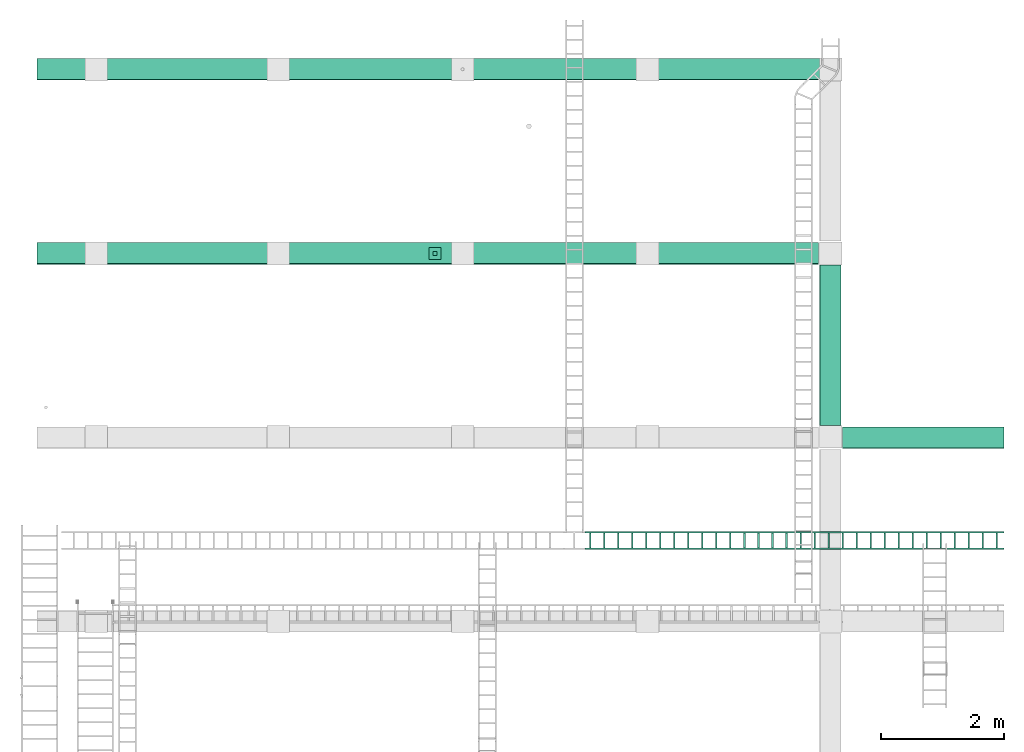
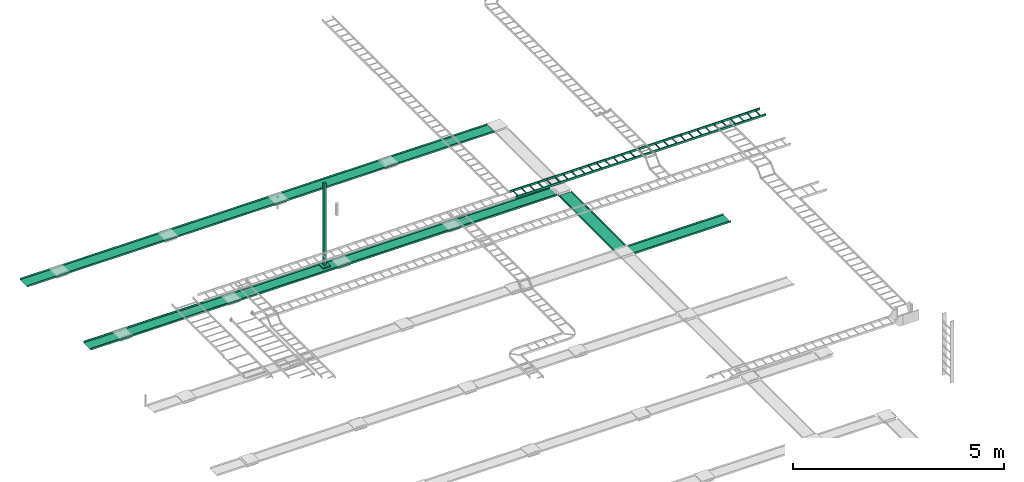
# One storey, part 12 of 16: 6 flow segments, 1 flow fitting.
"""IFC2X3 building model written with IfcOpenShell, lengths in millimetres."""

import ifcopenshell
import ifcopenshell.guid

model = None  # the IFC model being written
_history = None  # IfcOwnerHistory: only IFC2X3 demands one
_inside = {}  # id of a spatial element -> (the spatial element, [elements in it])
_under = {}  # id of a project, library or spatial element -> (it, [spatial elements below it])
_declared = {}  # id of a project -> (the project, [libraries it declares])
_typed = {}  # id of a type object -> (the type object, [elements of that type])
_made_of = {}  # id of a material, layer set ... -> (it, [elements and type objects made of it])


def new_model(schema):
    """Start an empty IFC model of exactly this schema.

    Asked for "IFC4X3", IfcOpenShell would pick the latest addendum, in which some entities
    have other attributes; the version numbers below select the first issue.
    IFC2X3 requires an IfcOwnerHistory on every rooted entity: one is made here for all.
    """
    global model, _history
    if schema == "IFC4X3":
        model = ifcopenshell.file(schema_version=(4, 3, 0, 0))
    else:
        model = ifcopenshell.file(schema=schema)
    _inside.clear()
    _under.clear()
    _declared.clear()
    _typed.clear()
    _made_of.clear()
    _history = None
    if model.schema == "IFC2X3":
        org = make("IfcOrganization", Name="unknown")
        user = make(
            "IfcPersonAndOrganization",
            ThePerson=make("IfcPerson", FamilyName="unknown"),
            TheOrganization=org,
        )
        app = make(
            "IfcApplication",
            ApplicationDeveloper=org,
            Version="unknown",
            ApplicationFullName="unknown",
            ApplicationIdentifier="unknown",
        )
        _history = make(
            "IfcOwnerHistory",
            OwningUser=user,
            OwningApplication=app,
            ChangeAction="ADDED",
            CreationDate=0,
        )
    return model


def make(cls, **values):
    """One entity of the class cls with the attributes given. An attribute that is None is left unset."""
    return model.create_entity(
        cls, **{name: value for name, value in values.items() if value is not None}
    )


def entity(cls, *values):
    """Any entity or typed value of the class cls, its attributes in the order of the schema. None: left unset."""
    e = model.create_entity(cls)
    for i, value in enumerate(values):
        if value is not None:
            e[i] = value
    return e


def rooted(cls, **values):
    """An entity with a GlobalId (a new one), such as an element, a storey or a relation."""
    return make(cls, GlobalId=ifcopenshell.guid.new(), OwnerHistory=_history, **values)


def si_unit(unit_type, name, prefix=None):
    """IfcSIUnit, for example si_unit("LENGTHUNIT", "METRE", prefix="MILLI")."""
    return make("IfcSIUnit", UnitType=unit_type, Prefix=prefix, Name=name)


def converted_unit(unit_type, name, factor, base, dimensions=None, offset=None):
    """IfcConversionBasedUnit, such as the inch: factor (a typed value) times the base unit."""
    return make(
        "IfcConversionBasedUnit"
        if offset is None
        else "IfcConversionBasedUnitWithOffset",
        ConversionOffset=offset,
        Dimensions=None
        if dimensions is None
        else entity("IfcDimensionalExponents", *dimensions),
        UnitType=unit_type,
        Name=name,
        ConversionFactor=make(
            "IfcMeasureWithUnit", ValueComponent=factor, UnitComponent=base
        ),
    )


def derived_unit(unit_type, elements):
    """IfcDerivedUnit: a product of units, each with its exponent."""
    return make(
        "IfcDerivedUnit",
        Elements=[
            make("IfcDerivedUnitElement", Unit=unit, Exponent=power)
            for unit, power in elements
        ],
        UnitType=unit_type,
    )


def assignment(units):
    """IfcUnitAssignment: the units of a project."""
    return None if units is None else make("IfcUnitAssignment", Units=units)


def point(xyz):
    """IfcCartesianPoint."""
    return None if xyz is None else make("IfcCartesianPoint", Coordinates=xyz)


def direction(xyz):
    """IfcDirection."""
    return None if xyz is None else make("IfcDirection", DirectionRatios=xyz)


def frame(location, z_axis=None, x_axis=None):
    """IfcAxis2Placement3D, a coordinate frame: its origin and axes. An axis left out is left unset."""
    return make(
        "IfcAxis2Placement3D",
        Location=point(location),
        Axis=direction(z_axis),
        RefDirection=direction(x_axis),
    )


def origin_with_axes():
    """The frame at (0, 0, 0) with the z axis (0, 0, 1) and the x axis (1, 0, 0) written out."""
    return frame((0.0, 0.0, 0.0), z_axis=(0.0, 0.0, 1.0), x_axis=(1.0, 0.0, 0.0))


def place(relative_to, where):
    """IfcLocalPlacement: puts the frame where relative to a parent placement (None: the world)."""
    return make(
        "IfcLocalPlacement", PlacementRelTo=relative_to, RelativePlacement=where
    )


def context(
    kind, dimensions, precision=None, world=None, true_north=None, identifier=None
):
    """IfcGeometricRepresentationContext, for example the 3D "Model" context."""
    return make(
        "IfcGeometricRepresentationContext",
        ContextIdentifier=identifier,
        ContextType=kind,
        CoordinateSpaceDimension=dimensions,
        Precision=precision,
        WorldCoordinateSystem=world,
        TrueNorth=true_north,
    )


def subcontext(parent, identifier, kind, view, scale=None):
    """IfcGeometricRepresentationSubContext, for example "Body" below "Model"."""
    return make(
        "IfcGeometricRepresentationSubContext",
        ContextIdentifier=identifier,
        ContextType=kind,
        ParentContext=parent,
        TargetScale=scale,
        TargetView=view,
    )


def project(units=None, contexts=None):
    """IfcProject with its units and contexts."""
    return rooted(
        "IfcProject",
        Name="project",
        RepresentationContexts=contexts,
        UnitsInContext=assignment(units),
    )


def spatial(cls, under=None, at=None, **own):
    """A site, building, storey or space (cls), placed at a placement, below another one or the project."""
    s = rooted(cls, ObjectPlacement=at, **own)
    if under is not None:
        _under.setdefault(under.id(), (under, []))[1].append(s)
    return s


def faces_of(points, faces, orient=None, outer=None):
    """IfcFace entities. A face is a list of loops; a loop is a list of indices into points, from 0.

    orient and outer hold one flag for each loop. By default every Orientation is true, the
    first loop of a face is its IfcFaceOuterBound and the others are IfcFaceBound.
    """
    made = []
    for i, loops in enumerate(faces):
        bounds = []
        for j, loop in enumerate(loops):
            is_outer = j == 0 if outer is None else outer[i][j]
            bounds.append(
                make(
                    "IfcFaceOuterBound" if is_outer else "IfcFaceBound",
                    Bound=make("IfcPolyLoop", Polygon=[points[k] for k in loop]),
                    Orientation=True if orient is None else orient[i][j],
                )
            )
        made.append(make("IfcFace", Bounds=bounds))
    return made


def open_shell(faces, orient=None, outer=None):
    """The faces of one IfcOpenShell. surface_model builds it on its shared points."""
    return ("IfcOpenShell", faces, orient, outer)


def faceted_brep(points, faces, orient=None, outer=None, voids=None):
    """IfcFacetedBrep: a solid bounded by flat faces; with voids (closed shells), ...WithVoids."""
    shared = [point(p) for p in points]
    hull = make("IfcClosedShell", CfsFaces=faces_of(shared, faces, orient, outer))
    if voids is None:
        return make("IfcFacetedBrep", Outer=hull)
    return make(
        "IfcFacetedBrepWithVoids",
        Outer=hull,
        Voids=[
            make(cls, CfsFaces=faces_of(shared, fs, o, b)) for cls, fs, o, b in voids
        ],
    )


def surface_model(cls, points, shells):
    """IfcFaceBasedSurfaceModel or IfcShellBasedSurfaceModel (cls): surfaces that need not close."""
    shared = [point(p) for p in points]
    made = [make(c, CfsFaces=faces_of(shared, fs, o, b)) for c, fs, o, b in shells]
    if cls == "IfcFaceBasedSurfaceModel":
        return make(cls, FbsmFaces=made)
    return make(cls, SbsmBoundary=made)


def shape(context_of_items, identifier, shape_type, items):
    """IfcShapeRepresentation: the items that make up one representation, for example the "Body"."""
    return make(
        "IfcShapeRepresentation",
        ContextOfItems=context_of_items,
        RepresentationIdentifier=identifier,
        RepresentationType=shape_type,
        Items=items,
    )


def source(mapping_origin, context_of_items, identifier, shape_type, items):
    """IfcRepresentationMap: a shape defined once, which mapped items show again and again."""
    return make(
        "IfcRepresentationMap",
        MappingOrigin=mapping_origin,
        MappedRepresentation=shape(context_of_items, identifier, shape_type, items),
    )


def transform(
    local_origin,
    x_axis=None,
    y_axis=None,
    z_axis=None,
    scale=None,
    scale2=None,
    scale3=None,
    uniform=True,
):
    """IfcCartesianTransformationOperator3D, or its non-uniform kind. x_axis, y_axis, z_axis: its Axis1, 2, 3."""
    if uniform:
        return make(
            "IfcCartesianTransformationOperator3D",
            Axis1=direction(x_axis),
            Axis2=direction(y_axis),
            LocalOrigin=point(local_origin),
            Scale=scale,
            Axis3=direction(z_axis),
        )
    return make(
        "IfcCartesianTransformationOperator3DnonUniform",
        Axis1=direction(x_axis),
        Axis2=direction(y_axis),
        LocalOrigin=point(local_origin),
        Scale=scale,
        Axis3=direction(z_axis),
        Scale2=scale2,
        Scale3=scale3,
    )


def mapped(mapping_source, mapping_target):
    """IfcMappedItem: shows the shape of a source again, moved by a transform."""
    return make(
        "IfcMappedItem", MappingSource=mapping_source, MappingTarget=mapping_target
    )


def made_of(thing, what):
    """Note that an element or type object is made of a material, layer set ...; save() writes the relation."""
    if what is not None:
        _made_of.setdefault(what.id(), (what, []))[1].append(thing)
    return thing


def type_object(cls, material=None, **own):
    """A type object (cls), such as IfcWallType, which elements share."""
    return made_of(rooted(cls, **own), material)


def element(
    cls,
    number,
    at=None,
    inside=None,
    cuts=None,
    type_object=None,
    material=None,
    context=None,
    identifier="Body",
    shape_type=None,
    held_by="IfcProductDefinitionShape",
    body=None,
    shapes=None,
    **own,
):
    """One element of the class cls, such as IfcWall. Its Tag is "e" and its number.

    at: its placement. inside: the storey or other place that contains it. cuts: it is an
    opening in that element (IfcRelVoidsElement). A single representation is given by context,
    identifier, shape_type and body (its items); several are given by shapes. held_by: the class
    of the entity that holds the representations. save() writes the other relations.
    """
    e = rooted(cls, Tag="e%d" % number, ObjectPlacement=at, **own)
    if body is not None:
        shapes = [shape(context, identifier, shape_type, body)]
    if shapes is not None:
        e.Representation = make(held_by, Representations=shapes)
    if inside is not None:
        _inside.setdefault(inside.id(), (inside, []))[1].append(e)
    if cuts is not None:
        rooted(
            "IfcRelVoidsElement", RelatingBuildingElement=cuts, RelatedOpeningElement=e
        )
    if type_object is not None:
        _typed.setdefault(type_object.id(), (type_object, []))[1].append(e)
    return made_of(e, material)


def aggregate(whole, parts):
    """IfcRelAggregates: a whole, such as a stair, and the parts it consists of."""
    return rooted("IfcRelAggregates", RelatingObject=whole, RelatedObjects=parts)


def save(model, path):
    """Write the relations noted so far, then the file.

    IfcRelAggregates (storeys below a building ...), IfcRelContainedInSpatialStructure (elements
    in a storey), IfcRelDefinesByType, IfcRelAssociatesMaterial and IfcRelDeclares: one each for
    every whole, place, type object, material and project.
    """
    for whole, parts in _under.values():
        aggregate(whole, parts)
    for where, things in _inside.values():
        rooted(
            "IfcRelContainedInSpatialStructure",
            RelatedElements=things,
            RelatingStructure=where,
        )
    for kind, things in _typed.values():
        rooted("IfcRelDefinesByType", RelatedObjects=things, RelatingType=kind)
    for what, things in _made_of.values():
        rooted("IfcRelAssociatesMaterial", RelatedObjects=things, RelatingMaterial=what)
    for by, libraries in _declared.values():
        rooted("IfcRelDeclares", RelatingContext=by, RelatedDefinitions=libraries)
    model.write(path)


model = new_model("IFC2X3")

# Units and contexts
model_context = context("Model", 3, precision=0.01, world=frame((0.0, 4.29681676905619e-09, 0.0)), true_north=direction((4.01073788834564e-13, 1.0)))
plan_context = context("Plan", 3, precision=0.01, world=frame((0.0, 4.29681676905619e-09, 0.0)), true_north=direction((4.01073788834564e-13, 1.0)))
body_context = subcontext(model_context, "Body", "Model", "MODEL_VIEW")
ifc_project = project(units=[converted_unit("PLANEANGLEUNIT", "DEGREE", entity("IfcPositiveLengthMeasure", 0.0174532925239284), si_unit("PLANEANGLEUNIT", "RADIAN"), dimensions=[0, 0, 0, 0, 0, 0, 0]), si_unit("AREAUNIT", "SQUARE_METRE"), si_unit("LENGTHUNIT", "METRE", prefix="MILLI"), si_unit("MASSUNIT", "GRAM", prefix="KILO"), si_unit("POWERUNIT", "WATT"), si_unit("PRESSUREUNIT", "PASCAL"), si_unit("FORCEUNIT", "NEWTON", prefix="KILO"), si_unit("ELECTRICVOLTAGEUNIT", "VOLT"), si_unit("ELECTRICCURRENTUNIT", "AMPERE"), si_unit("THERMODYNAMICTEMPERATUREUNIT", "DEGREE_CELSIUS"), si_unit("TIMEUNIT", "SECOND"), si_unit("VOLUMEUNIT", "CUBIC_METRE"), derived_unit("LINEARVELOCITYUNIT", [(si_unit("LENGTHUNIT", "METRE"), 1), (si_unit("TIMEUNIT", "SECOND"), -1)]), derived_unit("VOLUMETRICFLOWRATEUNIT", [(si_unit("VOLUMEUNIT", "CUBIC_METRE"), 1), (si_unit("TIMEUNIT", "SECOND"), -1)]), derived_unit("THERMALTRANSMITTANCEUNIT", [(si_unit("POWERUNIT", "WATT"), 1), (si_unit("THERMODYNAMICTEMPERATUREUNIT", "KELVIN"), -1), (si_unit("AREAUNIT", "SQUARE_METRE"), -1)]), derived_unit("SOUNDPRESSUREUNIT", [(si_unit("PRESSUREUNIT", "PASCAL"), 1)])], contexts=[model_context, plan_context])

# Site, building, storey
site_placement = place(None, frame((0.0, -4.29681676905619e-09, 0.0), z_axis=(0.0, 0.0, 1.0), x_axis=(1.0, 0.0, 0.0)))
site = spatial("IfcSite", under=ifc_project, at=site_placement, Name="ENGM", CompositionType="ELEMENT")
building_placement = place(site_placement, frame((0.0, 4.29681676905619e-09, 0.0), z_axis=(0.0, 0.0, 1.0), x_axis=(1.0, 0.0, 0.0)))
building = spatial("IfcBuilding", under=site, at=building_placement, Name="TS", CompositionType="ELEMENT")
storey_placement = place(building_placement, frame((0.0, 0.0, 210900.0), z_axis=(0.0, 0.0, 1.0), x_axis=(1.0, 0.0, 0.0)))
storey = spatial("IfcBuildingStorey", under=building, at=storey_placement, Name="Nivå F", CompositionType="ELEMENT", Elevation=210900.0)

# Flow fitting
cable_carrier_fitting_type = type_object("IfcCableCarrierFittingType", Name="NedføringsStaver 300mm", PredefinedType="NOTDEFINED")
shared_shape_1 = source(origin_with_axes(), body_context, "Body", "SurfaceModel", [
    surface_model("IfcShellBasedSurfaceModel", [(-100.0, 100.0, 32.69497), (-100.0, -100.0, 32.69497), (100.0, -100.0, 32.69497), (100.0, 100.0, 32.69497), (100.0, 100.0, 0.0), (100.0, -100.0, 0.0), (-100.0, -100.0, 0.0), (-100.0, 100.0, 0.0), (32.5, -32.5, 2400.00002), (32.5, 32.5, 2400.00002), (-32.5, 32.5, 2400.00002), (-32.5, -32.5, 2400.00002), (-32.5, -32.5, 0.0), (-32.5, 32.5, 0.0), (32.5, 32.5, 0.0), (32.5, -32.5, 0.0)], [open_shell([[[0, 1, 2]], [[2, 3, 0]], [[4, 5, 6]], [[6, 7, 4]], [[2, 1, 6]], [[6, 5, 2]], [[3, 2, 5]], [[5, 4, 3]], [[0, 3, 4]], [[4, 7, 0]], [[1, 0, 7]], [[7, 6, 1]], [[8, 9, 10]], [[10, 11, 8]], [[12, 13, 14]], [[14, 15, 12]], [[10, 9, 13]], [[14, 13, 9]], [[11, 10, 12]], [[13, 12, 10]], [[8, 11, 15]], [[12, 15, 11]], [[9, 8, 14]], [[15, 14, 8]]])]),
])
flow_fitting_placement = place(storey_placement, frame((527037.5, 458000.0, 0.0), z_axis=(0.0, 0.0, 1.0), x_axis=(1.0, 0.0, 0.0)))
element("IfcFlowFitting", 1, at=flow_fitting_placement, inside=storey, type_object=cable_carrier_fitting_type, Name="NedføringsStaver 300mm", context=body_context, shape_type="MappedRepresentation", body=[
    mapped(shared_shape_1, transform((0.0, 0.0, 0.0), scale=1.0)),
])

# Flow segments
cable_carrier_segment_type_1 = type_object("IfcCableCarrierSegmentType", Name="Kabelbane", PredefinedType="CABLETRAYSEGMENT")
shared_shape_2 = source(origin_with_axes(), body_context, "Body", "SurfaceModel", [
    surface_model("IfcShellBasedSurfaceModel", [(0.0, -175.0, 25.0), (0.0, -172.46, -22.46), (0.0, -175.0, -25.0), (0.0, -172.46, 25.0), (0.0, 175.0, 25.0), (0.0, 175.0, -25.0), (0.0, 172.46, -22.46), (0.0, 172.46, 25.0), (2619.99996, 175.0, -25.0), (2619.99996, 172.46, -22.46), (2619.99996, -175.0, -25.0), (2619.99996, 175.0, 25.0), (2619.99996, -172.46, -22.46), (2619.99996, -175.0, 25.0), (2619.99996, 172.46, 25.0), (2619.99996, -172.46, 25.0)], [open_shell([[[0, 1, 2]], [[1, 0, 3]], [[4, 5, 6]], [[6, 7, 4]], [[2, 6, 5]], [[6, 2, 1]], [[8, 9, 10]], [[9, 8, 11]], [[10, 12, 13]], [[12, 10, 9]], [[11, 14, 9]], [[15, 13, 12]], [[0, 2, 10]], [[10, 13, 0]], [[3, 0, 13]], [[13, 15, 3]], [[1, 3, 12]], [[15, 12, 3]], [[6, 1, 12]], [[12, 9, 6]], [[7, 6, 14]], [[9, 14, 6]], [[4, 7, 14]], [[14, 11, 4]], [[5, 4, 11]], [[11, 8, 5]], [[2, 5, 10]], [[8, 10, 5]]])]),
])
flow_segment_1_placement = place(storey_placement, frame((533489.50798, 457810.98922, -35.0), z_axis=(0.0, 0.0, 1.0), x_axis=(0.0, -1.0, 0.0)))
element("IfcFlowSegment", 2, at=flow_segment_1_placement, inside=storey, type_object=cable_carrier_segment_type_1, Name="Kabelbane", context=body_context, shape_type="MappedRepresentation", body=[
    mapped(shared_shape_2, transform((0.0, 0.0, 0.0), scale=1.0)),
])
cable_carrier_segment_type_2 = type_object("IfcCableCarrierSegmentType", Name="Kabelbro", PredefinedType="CABLELADDERSEGMENT")
flow_segment_2_placement = place(storey_placement, frame((540316.72091, 453316.47234, 4050.0), z_axis=(0.0, 0.0, 1.0), x_axis=(-1.0, 0.0, 0.0)))
element("IfcFlowSegment", 3, at=flow_segment_2_placement, inside=storey, type_object=cable_carrier_segment_type_2, Name="Kabelbro", context=body_context, shape_type="Brep", body=[
    faceted_brep([(4102.0999, -124.6, -4.6), (4127.5001, -124.6, -4.6), (4127.5001, -124.6, -30.0), (4102.0999, -124.6, -30.0), (4127.5001, 124.6, -30.0), (4127.5001, 124.6, -4.6), (4102.0999, 124.6, -4.6), (4102.0999, 124.6, -30.0), (4330.6999, -124.6, -4.6), (4356.1001, -124.6, -4.6), (4356.1001, -124.6, -30.0), (4330.6999, -124.6, -30.0), (4356.1001, 124.6, -30.0), (4356.1001, 124.6, -4.6), (4330.6999, 124.6, -4.6), (4330.6999, 124.6, -30.0), (4559.2999, -124.6, -4.6), (4584.7001, -124.6, -4.6), (4584.7001, -124.6, -30.0), (4559.2999, -124.6, -30.0), (4584.7001, 124.6, -30.0), (4584.7001, 124.6, -4.6), (4559.2999, 124.6, -4.6), (4559.2999, 124.6, -30.0), (4787.8999, -124.6, -4.6), (4813.3001, -124.6, -4.6), (4813.3001, -124.6, -30.0), (4787.8999, -124.6, -30.0), (4813.3001, 124.6, -30.0), (4813.3001, 124.6, -4.6), (4787.8999, 124.6, -4.6), (4787.8999, 124.6, -30.0), (5016.50019, -124.6, -4.6), (5041.89981, -124.6, -4.6), (5041.89981, -124.6, -30.0), (5016.50019, -124.6, -30.0), (5041.89981, 124.6, -30.0), (5041.89981, 124.6, -4.6), (5016.50019, 124.6, -4.6), (5016.50019, 124.6, -30.0), (5245.10019, -124.6, -4.6), (5270.49981, -124.6, -4.6), (5270.49981, -124.6, -30.0), (5245.10019, -124.6, -30.0), (5270.49981, 124.6, -30.0), (5270.49981, 124.6, -4.6), (5245.10019, 124.6, -4.6), (5245.10019, 124.6, -30.0), (5499.09981, 124.6, -30.0), (5499.09981, -124.6, -30.0), (5499.09981, -124.6, -4.6), (5499.09981, 124.6, -4.6), (5473.70019, 124.6, -4.6), (5473.70019, -124.6, -4.6), (5473.70019, -124.6, -30.0), (5473.70019, 124.6, -30.0), (5727.69981, 124.6, -30.0), (5727.69981, -124.6, -30.0), (5727.69981, -124.6, -4.6), (5727.69981, 124.6, -4.6), (5702.30019, 124.6, -4.6), (5702.30019, -124.6, -4.6), (5702.30019, -124.6, -30.0), (5702.30019, 124.6, -30.0), (5956.29981, 124.6, -30.0), (5956.29981, -124.6, -30.0), (5956.29981, -124.6, -4.6), (5956.29981, 124.6, -4.6), (5930.90019, 124.6, -4.6), (5930.90019, -124.6, -4.6), (5930.90019, -124.6, -30.0), (5930.90019, 124.6, -30.0), (6184.89981, 124.6, -30.0), (6184.89981, -124.6, -30.0), (6184.89981, -124.6, -4.6), (6184.89981, 124.6, -4.6), (6159.50019, 124.6, -4.6), (6159.50019, -124.6, -4.6), (6159.50019, -124.6, -30.0), (6159.50019, 124.6, -30.0), (6413.49981, 124.6, -30.0), (6413.49981, -124.6, -30.0), (6413.49981, -124.6, -4.6), (6413.49981, 124.6, -4.6), (6388.10019, 124.6, -4.6), (6388.10019, -124.6, -4.6), (6388.10019, -124.6, -30.0), (6388.10019, 124.6, -30.0), (6642.09981, 124.6, -30.0), (6642.09981, -124.6, -30.0), (6642.09981, -124.6, -4.6), (6642.09981, 124.6, -4.6), (6616.70019, 124.6, -4.6), (6616.70019, -124.6, -4.6), (6616.70019, -124.6, -30.0), (6616.70019, 124.6, -30.0), (6870.69981, 124.6, -30.0), (6870.69981, -124.6, -30.0), (6870.69981, -124.6, -4.6), (6870.69981, 124.6, -4.6), (6845.30019, 124.6, -4.6), (6845.30019, -124.6, -4.6), (6845.30019, -124.6, -30.0), (6845.30019, 124.6, -30.0), (7099.29981, 124.6, -30.0), (7099.29981, -124.6, -30.0), (7099.29981, -124.6, -4.6), (7099.29981, 124.6, -4.6), (7073.90019, 124.6, -4.6), (7073.90019, -124.6, -4.6), (7073.90019, -124.6, -30.0), (7073.90019, 124.6, -30.0), (7327.89981, 124.6, -30.0), (7327.89981, -124.6, -30.0), (7327.89981, -124.6, -4.6), (7327.89981, 124.6, -4.6), (7302.50019, 124.6, -4.6), (7302.50019, -124.6, -4.6), (7302.50019, -124.6, -30.0), (7302.50019, 124.6, -30.0), (7556.49981, -124.6, -30.0), (7531.10019, -124.6, -30.0), (7531.10019, -124.6, -4.6), (7556.49981, -124.6, -4.6), (7531.10019, 124.6, -4.6), (7531.10019, 124.6, -30.0), (7556.49981, 124.6, -30.0), (7556.49981, 124.6, -4.6), (7785.09981, -124.6, -30.0), (7759.70019, -124.6, -30.0), (7759.70019, -124.6, -4.6), (7785.09981, -124.6, -4.6), (7759.70019, 124.6, -4.6), (7759.70019, 124.6, -30.0), (7785.09981, 124.6, -30.0), (7785.09981, 124.6, -4.6), (8013.69981, -124.6, -30.0), (7988.30019, -124.6, -30.0), (7988.30019, -124.6, -4.6), (8013.69981, -124.6, -4.6), (7988.30019, 124.6, -4.6), (7988.30019, 124.6, -30.0), (8013.69981, 124.6, -30.0), (8013.69981, 124.6, -4.6), (8242.29981, -124.6, -30.0), (8216.90019, -124.6, -30.0), (8216.90019, -124.6, -4.6), (8242.29981, -124.6, -4.6), (8216.90019, 124.6, -4.6), (8216.90019, 124.6, -30.0), (8242.29981, 124.6, -30.0), (8242.29981, 124.6, -4.6), (8470.89981, -124.6, -30.0), (8445.50019, -124.6, -30.0), (8445.50019, -124.6, -4.6), (8470.89981, -124.6, -4.6), (8445.50019, 124.6, -4.6), (8445.50019, 124.6, -30.0), (8470.89981, 124.6, -30.0), (8470.89981, 124.6, -4.6), (8699.49981, -124.6, -30.0), (8674.10019, -124.6, -30.0), (8674.10019, -124.6, -4.6), (8699.49981, -124.6, -4.6), (8674.10019, 124.6, -4.6), (8674.10019, 124.6, -30.0), (8699.49981, 124.6, -30.0), (8699.49981, 124.6, -4.6), (8928.09981, -124.6, -30.0), (8902.70019, -124.6, -30.0), (8902.70019, -124.6, -4.6), (8928.09981, -124.6, -4.6), (8902.70019, 124.6, -4.6), (8902.70019, 124.6, -30.0), (8928.09981, 124.6, -30.0), (8928.09981, 124.6, -4.6), (9156.69981, -124.6, -30.0), (9131.30019, -124.6, -30.0), (9131.30019, -124.6, -4.6), (9156.69981, -124.6, -4.6), (9131.30019, 124.6, -4.6), (9131.30019, 124.6, -30.0), (9156.69981, 124.6, -30.0), (9156.69981, 124.6, -4.6), (9385.29981, 124.6, -30.0), (9385.29981, -124.6, -30.0), (9385.29981, -124.6, -4.6), (9385.29981, 124.6, -4.6), (9359.90019, 124.6, -4.6), (9359.90019, -124.6, -4.6), (9359.90019, -124.6, -30.0), (9359.90019, 124.6, -30.0), (9613.89981, 124.6, -30.0), (9613.89981, -124.6, -30.0), (9613.89981, -124.6, -4.6), (9613.89981, 124.6, -4.6), (9588.50019, 124.6, -4.6), (9588.50019, -124.6, -4.6), (9588.50019, -124.6, -30.0), (9588.50019, 124.6, -30.0), (9842.50039, 124.6, -30.0), (9842.50039, -124.6, -30.0), (9842.50039, -124.6, -4.6), (9842.50039, 124.6, -4.6), (9817.09961, 124.6, -4.6), (9817.09961, -124.6, -4.6), (9817.09961, -124.6, -30.0), (9817.09961, 124.6, -30.0), (10071.10039, 124.6, -30.0), (10071.10039, -124.6, -30.0), (10071.10039, -124.6, -4.6), (10071.10039, 124.6, -4.6), (10045.69961, 124.6, -4.6), (10045.69961, -124.6, -4.6), (10045.69961, -124.6, -30.0), (10045.69961, 124.6, -30.0), (10299.70039, 124.6, -30.0), (10299.70039, -124.6, -30.0), (10299.70039, -124.6, -4.6), (10299.70039, 124.6, -4.6), (10274.29961, 124.6, -4.6), (10274.29961, -124.6, -4.6), (10274.29961, -124.6, -30.0), (10274.29961, 124.6, -30.0), (10528.30039, 124.6, -30.0), (10528.30039, -124.6, -30.0), (10528.30039, -124.6, -4.6), (10528.30039, 124.6, -4.6), (10502.89961, 124.6, -4.6), (10502.89961, -124.6, -4.6), (10502.89961, -124.6, -30.0), (10502.89961, 124.6, -30.0), (10756.90039, 124.6, -30.0), (10756.90039, -124.6, -30.0), (10756.90039, -124.6, -4.6), (10756.90039, 124.6, -4.6), (10731.49961, 124.6, -4.6), (10731.49961, -124.6, -4.6), (10731.49961, -124.6, -30.0), (10731.49961, 124.6, -30.0), (10833.12015, -124.6, -30.0), (10833.12015, -150.0, -30.0), (10833.12015, -150.0, 30.0), (10833.12015, -124.6, 30.0), (10833.12015, 150.0, -30.0), (10833.12015, 124.6, -30.0), (10833.12015, 124.6, 30.0), (10833.12015, 150.0, 30.0), (3996.22090999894, -150.0, -7.86664864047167), (3996.22090999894, -150.0, 30.0), (3996.22090999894, -150.0, -30.0), (3996.22090999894, -140.630214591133, 30.0), (3996.22090999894, -124.6, 30.0), (3996.22090999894, -124.6, 7.86664864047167), (3996.22090999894, -124.6, -30.0), (3996.22090999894, -133.969785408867, -30.0), (3996.22090999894, 150.0, 7.86664864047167), (3996.22090999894, 150.0, -30.0), (3996.22090999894, 150.0, 30.0), (3996.22090999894, 140.630214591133, -30.0), (3996.22090999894, 124.6, -30.0), (3996.22090999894, 124.6, -7.86664864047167), (3996.22090999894, 124.6, 30.0), (3996.22090999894, 133.969785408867, 30.0)], [[[0, 1, 2]], [[2, 3, 0]], [[4, 5, 6]], [[6, 7, 4]], [[4, 2, 1]], [[1, 5, 4]], [[6, 1, 0]], [[1, 6, 5]], [[6, 0, 3]], [[3, 7, 6]], [[4, 3, 2]], [[3, 4, 7]], [[8, 9, 10]], [[10, 11, 8]], [[12, 13, 14]], [[14, 15, 12]], [[12, 10, 9]], [[9, 13, 12]], [[14, 9, 8]], [[9, 14, 13]], [[14, 8, 11]], [[11, 15, 14]], [[12, 11, 10]], [[11, 12, 15]], [[16, 17, 18]], [[18, 19, 16]], [[20, 21, 22]], [[22, 23, 20]], [[20, 18, 17]], [[17, 21, 20]], [[22, 17, 16]], [[17, 22, 21]], [[22, 16, 19]], [[19, 23, 22]], [[20, 19, 18]], [[19, 20, 23]], [[24, 25, 26]], [[26, 27, 24]], [[28, 29, 30]], [[30, 31, 28]], [[28, 26, 25]], [[25, 29, 28]], [[30, 25, 24]], [[25, 30, 29]], [[30, 24, 27]], [[27, 31, 30]], [[28, 27, 26]], [[27, 28, 31]], [[32, 33, 34]], [[34, 35, 32]], [[36, 37, 38]], [[38, 39, 36]], [[36, 34, 33]], [[33, 37, 36]], [[38, 33, 32]], [[33, 38, 37]], [[38, 32, 35]], [[35, 39, 38]], [[36, 35, 34]], [[35, 36, 39]], [[40, 41, 42]], [[42, 43, 40]], [[44, 45, 46]], [[46, 47, 44]], [[44, 42, 41]], [[41, 45, 44]], [[46, 41, 40]], [[41, 46, 45]], [[46, 40, 43]], [[43, 47, 46]], [[44, 43, 42]], [[43, 44, 47]], [[48, 49, 50]], [[50, 51, 48]], [[52, 50, 53]], [[50, 52, 51]], [[52, 53, 54]], [[54, 55, 52]], [[48, 54, 49]], [[54, 48, 55]], [[56, 57, 58]], [[58, 59, 56]], [[60, 58, 61]], [[58, 60, 59]], [[60, 61, 62]], [[62, 63, 60]], [[56, 62, 57]], [[62, 56, 63]], [[64, 65, 66]], [[66, 67, 64]], [[68, 66, 69]], [[66, 68, 67]], [[68, 69, 70]], [[70, 71, 68]], [[64, 70, 65]], [[70, 64, 71]], [[72, 73, 74]], [[74, 75, 72]], [[76, 74, 77]], [[74, 76, 75]], [[76, 77, 78]], [[78, 79, 76]], [[72, 78, 73]], [[78, 72, 79]], [[80, 81, 82]], [[82, 83, 80]], [[84, 82, 85]], [[82, 84, 83]], [[84, 85, 86]], [[86, 87, 84]], [[80, 86, 81]], [[86, 80, 87]], [[88, 89, 90]], [[90, 91, 88]], [[92, 90, 93]], [[90, 92, 91]], [[92, 93, 94]], [[94, 95, 92]], [[88, 94, 89]], [[94, 88, 95]], [[96, 97, 98]], [[98, 99, 96]], [[100, 98, 101]], [[98, 100, 99]], [[100, 101, 102]], [[102, 103, 100]], [[96, 102, 97]], [[102, 96, 103]], [[104, 105, 106]], [[106, 107, 104]], [[108, 106, 109]], [[106, 108, 107]], [[108, 109, 110]], [[110, 111, 108]], [[104, 110, 105]], [[110, 104, 111]], [[112, 113, 114]], [[114, 115, 112]], [[116, 114, 117]], [[114, 116, 115]], [[116, 117, 118]], [[118, 119, 116]], [[112, 118, 113]], [[118, 112, 119]], [[49, 54, 53]], [[53, 50, 49]], [[52, 55, 48]], [[48, 51, 52]], [[57, 62, 61]], [[61, 58, 57]], [[60, 63, 56]], [[56, 59, 60]], [[65, 70, 69]], [[69, 66, 65]], [[68, 71, 64]], [[64, 67, 68]], [[73, 78, 77]], [[77, 74, 73]], [[76, 79, 72]], [[72, 75, 76]], [[81, 86, 85]], [[85, 82, 81]], [[84, 87, 80]], [[80, 83, 84]], [[89, 94, 93]], [[93, 90, 89]], [[92, 95, 88]], [[88, 91, 92]], [[97, 102, 101]], [[101, 98, 97]], [[100, 103, 96]], [[96, 99, 100]], [[105, 110, 109]], [[109, 106, 105]], [[108, 111, 104]], [[104, 107, 108]], [[113, 118, 117]], [[117, 114, 113]], [[116, 119, 112]], [[112, 115, 116]], [[120, 121, 122]], [[122, 123, 120]], [[124, 125, 126]], [[126, 127, 124]], [[126, 120, 123]], [[123, 127, 126]], [[124, 123, 122]], [[123, 124, 127]], [[124, 122, 121]], [[121, 125, 124]], [[126, 121, 120]], [[121, 126, 125]], [[128, 129, 130]], [[130, 131, 128]], [[132, 133, 134]], [[134, 135, 132]], [[134, 128, 131]], [[131, 135, 134]], [[132, 131, 130]], [[131, 132, 135]], [[132, 130, 129]], [[129, 133, 132]], [[134, 129, 128]], [[129, 134, 133]], [[136, 137, 138]], [[138, 139, 136]], [[140, 141, 142]], [[142, 143, 140]], [[142, 136, 139]], [[139, 143, 142]], [[140, 139, 138]], [[139, 140, 143]], [[140, 138, 137]], [[137, 141, 140]], [[142, 137, 136]], [[137, 142, 141]], [[144, 145, 146]], [[146, 147, 144]], [[148, 149, 150]], [[150, 151, 148]], [[150, 144, 147]], [[147, 151, 150]], [[148, 147, 146]], [[147, 148, 151]], [[148, 146, 145]], [[145, 149, 148]], [[150, 145, 144]], [[145, 150, 149]], [[152, 153, 154]], [[154, 155, 152]], [[156, 157, 158]], [[158, 159, 156]], [[158, 152, 155]], [[155, 159, 158]], [[156, 155, 154]], [[155, 156, 159]], [[156, 154, 153]], [[153, 157, 156]], [[158, 153, 152]], [[153, 158, 157]], [[160, 161, 162]], [[162, 163, 160]], [[164, 165, 166]], [[166, 167, 164]], [[166, 160, 163]], [[163, 167, 166]], [[164, 163, 162]], [[163, 164, 167]], [[164, 162, 161]], [[161, 165, 164]], [[166, 161, 160]], [[161, 166, 165]], [[168, 169, 170]], [[170, 171, 168]], [[172, 173, 174]], [[174, 175, 172]], [[174, 168, 171]], [[171, 175, 174]], [[172, 171, 170]], [[171, 172, 175]], [[172, 170, 169]], [[169, 173, 172]], [[174, 169, 168]], [[169, 174, 173]], [[176, 177, 178]], [[178, 179, 176]], [[180, 181, 182]], [[182, 183, 180]], [[182, 176, 179]], [[179, 183, 182]], [[180, 179, 178]], [[179, 180, 183]], [[180, 178, 177]], [[177, 181, 180]], [[182, 177, 176]], [[177, 182, 181]], [[184, 185, 186]], [[186, 187, 184]], [[188, 186, 189]], [[186, 188, 187]], [[188, 189, 190]], [[190, 191, 188]], [[184, 190, 185]], [[190, 184, 191]], [[192, 193, 194]], [[194, 195, 192]], [[196, 194, 197]], [[194, 196, 195]], [[196, 197, 198]], [[198, 199, 196]], [[192, 198, 193]], [[198, 192, 199]], [[200, 201, 202]], [[202, 203, 200]], [[204, 202, 205]], [[202, 204, 203]], [[204, 205, 206]], [[206, 207, 204]], [[200, 206, 201]], [[206, 200, 207]], [[208, 209, 210]], [[210, 211, 208]], [[212, 210, 213]], [[210, 212, 211]], [[212, 213, 214]], [[214, 215, 212]], [[208, 214, 209]], [[214, 208, 215]], [[216, 217, 218]], [[218, 219, 216]], [[220, 218, 221]], [[218, 220, 219]], [[220, 221, 222]], [[222, 223, 220]], [[216, 222, 217]], [[222, 216, 223]], [[224, 225, 226]], [[226, 227, 224]], [[228, 226, 229]], [[226, 228, 227]], [[228, 229, 230]], [[230, 231, 228]], [[224, 230, 225]], [[230, 224, 231]], [[232, 233, 234]], [[234, 235, 232]], [[236, 234, 237]], [[234, 236, 235]], [[236, 237, 238]], [[238, 239, 236]], [[232, 238, 233]], [[238, 232, 239]], [[185, 190, 189]], [[189, 186, 185]], [[188, 191, 184]], [[184, 187, 188]], [[193, 198, 197]], [[197, 194, 193]], [[196, 199, 192]], [[192, 195, 196]], [[201, 206, 205]], [[205, 202, 201]], [[204, 207, 200]], [[200, 203, 204]], [[209, 214, 213]], [[213, 210, 209]], [[212, 215, 208]], [[208, 211, 212]], [[217, 222, 221]], [[221, 218, 217]], [[220, 223, 216]], [[216, 219, 220]], [[225, 230, 229]], [[229, 226, 225]], [[228, 231, 224]], [[224, 227, 228]], [[233, 238, 237]], [[237, 234, 233]], [[236, 239, 232]], [[232, 235, 236]], [[240, 241, 242]], [[242, 243, 240]], [[244, 245, 246]], [[246, 247, 244]], [[248, 249, 242]], [[250, 248, 242, 241]], [[251, 252, 243]], [[249, 251, 243, 242]], [[253, 254, 240]], [[252, 253, 240, 243]], [[255, 250, 241]], [[254, 255, 241, 240]], [[256, 257, 244]], [[258, 256, 244, 247]], [[259, 260, 245]], [[257, 259, 245, 244]], [[261, 262, 246]], [[260, 261, 246, 245]], [[263, 258, 247]], [[262, 263, 247, 246]], [[250, 255, 254, 253, 252, 251, 249, 248]], [[258, 263, 262, 261, 260, 259, 257, 256]]], orient=[[False], [False], [False], [False], [False], [False], [False], [False], [False], [False], [False], [False], [False], [False], [False], [False], [False], [False], [False], [False], [False], [False], [False], [False], [False], [False], [False], [False], [False], [False], [False], [False], [False], [False], [False], [False], [False], [False], [False], [False], [False], [False], [False], [False], [False], [False], [False], [False], [False], [False], [False], [False], [False], [False], [False], [False], [False], [False], [False], [False], [False], [False], [False], [False], [False], [False], [False], [False], [False], [False], [False], [False], [False], [False], [False], [False], [False], [False], [False], [False], [False], [False], [False], [False], [False], [False], [False], [False], [False], [False], [False], [False], [False], [False], [False], [False], [False], [False], [False], [False], [False], [False], [False], [False], [False], [False], [False], [False], [False], [False], [False], [False], [False], [False], [False], [False], [False], [False], [False], [False], [False], [False], [False], [False], [False], [False], [False], [False], [False], [False], [False], [False], [False], [False], [False], [False], [False], [False], [False], [False], [False], [False], [False], [False], [False], [False], [False], [False], [False], [False], [False], [False], [False], [False], [False], [False], [False], [False], [False], [False], [False], [False], [False], [False], [False], [False], [False], [False], [False], [False], [False], [False], [False], [False], [False], [False], [False], [False], [False], [False], [False], [False], [False], [False], [False], [False], [False], [False], [False], [False], [False], [False], [False], [False], [False], [False], [False], [False], [False], [False], [False], [False], [False], [False], [False], [False], [False], [False], [False], [False], [False], [False], [False], [False], [False], [False], [False], [False], [False], [False], [False], [False], [False], [False], [False], [False], [False], [False], [False], [False], [False], [False], [False], [False], [False], [False], [False], [False], [False], [False], [False], [False], [False], [False], [False], [False], [False], [False], [False], [False], [False], [False], [False], [False], [False], [False], [False], [False], [False], [False], [False], [False], [False], [False], [False], [False], [False], [False], [False], [False], [False], [False], [False], [False], [False], [False], [False], [False], [False], [False], [False], [False], [False], [False], [False], [False], [False], [False], [False], [False], [False], [False], [False], [False], [False], [False], [False], [False], [False], [False], [False], [False], [False], [False], [False], [False], [False], [False], [False], [False], [False], [False], [False], [False], [False], [False], [False], [False], [False], [False], [False], [False], [False], [False], [False], [False], [False], [False], [False], [False], [False], [False], [False], [False], [False], [False], [False], [False], [False], [False], [False], [False], [False], [False], [False], [False], [False], [False], [False], [False], [False], [False], [False], [False], [False], [False], [False], [False], [False], [False], [False], [False], [False], [False], [False], [False], [False], [False], [False], [False], [False], [False], [False], [False], [False], [False], [False], [False], [False], [False], [False], [False]]),
])
flow_segment_3_placement = place(storey_placement, frame((512669.41745, 461005.98922, -35.0), z_axis=(0.0, 0.0, 1.0), x_axis=(1.0, 0.0, 0.0)))
element("IfcFlowSegment", 4, at=flow_segment_3_placement, inside=storey, type_object=cable_carrier_segment_type_1, Name="Kabelbane", context=body_context, shape_type="Brep", body=[
    faceted_brep([(20659.9994, -175.0, 25.0), (20659.9994, -172.46, -22.46), (20659.9994, -175.0, -25.0), (20659.9994, -172.46, 25.0), (20659.9994, 175.0, -25.0), (20659.9994, 172.46, -22.46), (20659.9994, 175.0, 25.0), (20659.9994, 172.46, 25.0), (7875.57005002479, -175.0, -5.94005256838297), (7875.57005002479, -175.0, 25.0), (7875.57005002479, -175.0, -25.0), (7875.57005002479, -173.428245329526, 25.0), (7875.57005002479, -172.46, 25.0), (7875.57005002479, -172.46, 6.90829789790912), (7875.57005002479, -172.46, -22.46), (7875.57005002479, -40.9768586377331, -22.46), (7875.57005002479, 172.46, -22.46), (7875.57005002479, 172.46, -4.36829789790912), (7875.57005002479, 172.46, 25.0), (7875.57005002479, 174.031754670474, 25.0), (7875.57005002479, 175.0, 25.0), (7875.57005002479, 175.0, 5.94005256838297), (7875.57005002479, 175.0, -25.0), (7875.57005002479, 41.5803679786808, -25.0)], [[[0, 1, 2]], [[1, 0, 3]], [[4, 2, 1]], [[1, 5, 4]], [[6, 4, 5]], [[5, 7, 6]], [[8, 9, 0]], [[10, 8, 0, 2]], [[9, 11, 0]], [[11, 12, 3, 0]], [[13, 14, 1]], [[12, 13, 1, 3]], [[15, 16, 5]], [[14, 15, 5, 1]], [[17, 18, 7]], [[16, 17, 7, 5]], [[18, 19, 7]], [[19, 20, 6, 7]], [[21, 22, 4]], [[20, 21, 4, 6]], [[23, 10, 2]], [[22, 23, 2, 4]], [[10, 23, 22, 21, 20, 19, 18, 17, 16, 15, 14, 13, 12, 11, 9, 8]]], orient=[[False], [False], [False], [False], [False], [False], [False], [False], [False], [False], [False], [False], [False], [False], [False], [False], [False], [False], [False], [False], [False], [False], [False]]),
])
for number, where, z_axis, x_axis in (
    (5, (512694.6625, 458005.98922, -35.0), (0.0, 0.0, 1.0), (1.0, 0.0, 0.0)),
    (6, (512694.6625, 457995.98922, -35.0), (0.0, 0.0, 1.0), (1.0, 0.0, 0.0)),
):
    element("IfcFlowSegment", number, at=place(storey_placement, frame(where, z_axis=z_axis, x_axis=x_axis)), inside=storey, type_object=cable_carrier_segment_type_1, Name="Kabelbane", context=body_context, shape_type="Brep", body=[
        faceted_brep([(20599.84493, -175.0, 25.0), (20599.84493, -172.46, -22.46), (20599.84493, -175.0, -25.0), (20599.84493, -172.46, 25.0), (20599.84493, 175.0, -25.0), (20599.84493, 172.46, -22.46), (20599.84493, 175.0, 25.0), (20599.84493, 172.46, 25.0), (7850.32500002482, -175.0, -25.0), (7850.32500002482, -175.0, 5.94566967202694), (7850.32500002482, -175.0, 25.0), (7850.32500002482, -173.427959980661, 25.0), (7850.32500002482, -172.46, 25.0), (7850.32500002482, -172.46, -4.37362965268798), (7850.32500002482, -172.46, -22.46), (7850.32500002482, -41.0156076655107, -22.46), (7850.32500002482, 172.46, -22.46), (7850.32500002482, 172.46, 6.91362965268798), (7850.32500002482, 172.46, 25.0), (7850.32500002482, 174.032040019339, 25.0), (7850.32500002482, 175.0, 25.0), (7850.32500002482, 175.0, -5.94566967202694), (7850.32500002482, 175.0, -25.0), (7850.32500002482, 41.6196877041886, -25.0)], [[[0, 1, 2]], [[1, 0, 3]], [[4, 2, 1]], [[1, 5, 4]], [[6, 4, 5]], [[5, 7, 6]], [[8, 9, 2]], [[9, 10, 0, 2]], [[10, 11, 0]], [[11, 12, 3, 0]], [[12, 13, 3]], [[13, 14, 1, 3]], [[15, 16, 5]], [[14, 15, 5, 1]], [[16, 17, 5]], [[17, 18, 7, 5]], [[18, 19, 7]], [[19, 20, 6, 7]], [[20, 21, 6]], [[21, 22, 4, 6]], [[23, 8, 2]], [[22, 23, 2, 4]], [[23, 22, 21, 20, 19, 18, 17, 16, 15, 14, 13, 12, 11, 10, 9, 8]]], orient=[[False], [False], [False], [False], [False], [False], [False], [False], [False], [False], [False], [False], [False], [False], [False], [False], [False], [False], [False], [False], [False], [False], [False]]),
    ])
flow_segment_4_placement = place(storey_placement, frame((533684.50798, 454995.98922, -35.0), z_axis=(0.0, 0.0, 1.0), x_axis=(1.0, 0.0, 0.0)))
element("IfcFlowSegment", 7, at=flow_segment_4_placement, inside=storey, type_object=cable_carrier_segment_type_1, Name="Kabelbane", context=body_context, shape_type="Brep", body=[
    faceted_brep([(0.0, -175.0, -25.0), (0.0, -172.46, -22.46), (0.0, -175.0, 25.0), (0.0, -172.46, 25.0), (0.0, 175.0, -25.0), (0.0, 172.46, -22.46), (0.0, 175.0, 25.0), (0.0, 172.46, 25.0), (2635.9920200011, -175.0, 25.0), (2635.9920200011, -175.0, -9.68466713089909), (2635.9920200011, -175.0, -25.0), (2635.9920200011, -172.46, 25.0), (2635.9920200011, -174.22198109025, 25.0), (2635.9920200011, -172.46, -22.46), (2635.9920200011, -172.46, 10.4626860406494), (2635.9920200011, 66.8087077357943, -22.46), (2635.9920200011, 172.46, -22.46), (2635.9920200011, 172.46, 25.0), (2635.9920200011, 172.46, -7.92268604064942), (2635.9920200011, 175.0, 25.0), (2635.9920200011, 173.23801890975, 25.0), (2635.9920200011, 175.0, -25.0), (2635.9920200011, 175.0, 9.68466713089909), (2635.9920200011, 67.7926699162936, -25.0)], [[[0, 1, 2]], [[3, 2, 1]], [[1, 0, 4]], [[4, 5, 1]], [[5, 4, 6]], [[6, 7, 5]], [[8, 9, 0, 2]], [[9, 10, 0]], [[11, 12, 2, 3]], [[12, 8, 2]], [[13, 14, 3, 1]], [[14, 11, 3]], [[15, 13, 1, 5]], [[16, 15, 5]], [[17, 18, 5, 7]], [[18, 16, 5]], [[19, 20, 7, 6]], [[20, 17, 7]], [[21, 22, 6, 4]], [[22, 19, 6]], [[10, 23, 4, 0]], [[23, 21, 4]], [[12, 11, 14, 13, 15, 16, 18, 17, 20, 19, 22, 21, 23, 10, 9, 8]]], orient=[[False], [False], [False], [False], [False], [False], [False], [False], [False], [False], [False], [False], [False], [False], [False], [False], [False], [False], [False], [False], [False], [False], [False]]),
])

save(model, "model.ifc")
